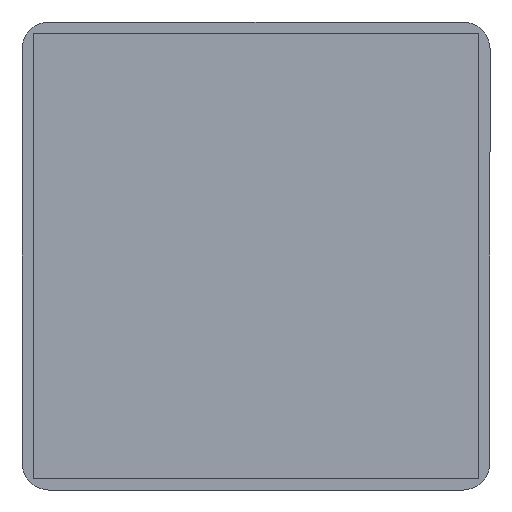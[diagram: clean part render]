
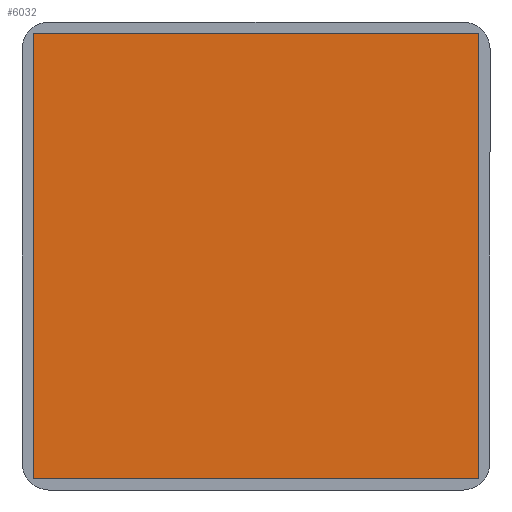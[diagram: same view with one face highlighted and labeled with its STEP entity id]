
A CAD part, front view. The second image highlights one B-rep face of the part: STEP entity #6032.
In plain terms, the highlighted planar face has unit normal (0, -1, 0).
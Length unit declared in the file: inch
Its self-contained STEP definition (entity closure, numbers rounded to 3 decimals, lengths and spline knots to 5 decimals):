
#20 = EDGE_LOOP ( 'NONE', ( #10614, #5285, #8298, #12926 ) ) ;
#688 = PLANE ( 'NONE',  #3291 ) ;
#908 = VECTOR ( 'NONE', #5825, 39.37008 ) ;
#921 = EDGE_CURVE ( 'NONE', #10732, #5448, #13170, .T. ) ;
#1049 = DIRECTION ( 'NONE',  ( 0., -1., 0. ) ) ;
#1690 = CARTESIAN_POINT ( 'NONE',  ( -0.64961, -0.005, -0.64961 ) ) ;
#1777 = DIRECTION ( 'NONE',  ( 1., 0., 0. ) ) ;
#2135 = VECTOR ( 'NONE', #1777, 39.37008 ) ;
#2621 = EDGE_CURVE ( 'NONE', #5032, #10732, #11010, .T. ) ;
#2747 = CARTESIAN_POINT ( 'NONE',  ( 0.64961, -0.005, -0.64961 ) ) ;
#3291 = AXIS2_PLACEMENT_3D ( 'NONE', #4181, #1049, #6410 ) ;
#3621 = CARTESIAN_POINT ( 'NONE',  ( 0.64961, -0.005, 0.64961 ) ) ;
#4181 = CARTESIAN_POINT ( 'NONE',  ( 0.64961, -0.005, 0.64961 ) ) ;
#4398 = VERTEX_POINT ( 'NONE', #3621 ) ;
#4565 = CARTESIAN_POINT ( 'NONE',  ( -0.64961, -0.005, -0.64961 ) ) ;
#5032 = VERTEX_POINT ( 'NONE', #12149 ) ;
#5285 = ORIENTED_EDGE ( 'NONE', *, *, #9755, .T. ) ;
#5448 = VERTEX_POINT ( 'NONE', #9202 ) ;
#5825 = DIRECTION ( 'NONE',  ( 0., 0., -1. ) ) ;
#6032 = ADVANCED_FACE ( 'NONE', ( #11320 ), #688, .T. ) ;
#6410 = DIRECTION ( 'NONE',  ( 0., 0., 1. ) ) ;
#6695 = CARTESIAN_POINT ( 'NONE',  ( 0.64961, -0.005, -0.64961 ) ) ;
#8298 = ORIENTED_EDGE ( 'NONE', *, *, #2621, .T. ) ;
#8977 = VECTOR ( 'NONE', #11313, 39.37008 ) ;
#9202 = CARTESIAN_POINT ( 'NONE',  ( 0.64961, -0.005, -0.64961 ) ) ;
#9370 = EDGE_CURVE ( 'NONE', #5448, #4398, #10942, .T. ) ;
#9755 = EDGE_CURVE ( 'NONE', #4398, #5032, #12332, .T. ) ;
#10614 = ORIENTED_EDGE ( 'NONE', *, *, #9370, .T. ) ;
#10732 = VERTEX_POINT ( 'NONE', #4565 ) ;
#10942 = LINE ( 'NONE', #6695, #12407 ) ;
#11010 = LINE ( 'NONE', #1690, #908 ) ;
#11069 = DIRECTION ( 'NONE',  ( 0., 0., 1. ) ) ;
#11313 = DIRECTION ( 'NONE',  ( -1., 0., 0. ) ) ;
#11320 = FACE_OUTER_BOUND ( 'NONE', #20, .T. ) ;
#12149 = CARTESIAN_POINT ( 'NONE',  ( -0.64961, -0.005, 0.64961 ) ) ;
#12332 = LINE ( 'NONE', #13198, #8977 ) ;
#12407 = VECTOR ( 'NONE', #11069, 39.37008 ) ;
#12926 = ORIENTED_EDGE ( 'NONE', *, *, #921, .T. ) ;
#13170 = LINE ( 'NONE', #2747, #2135 ) ;
#13198 = CARTESIAN_POINT ( 'NONE',  ( 0.64961, -0.005, 0.64961 ) ) ;
